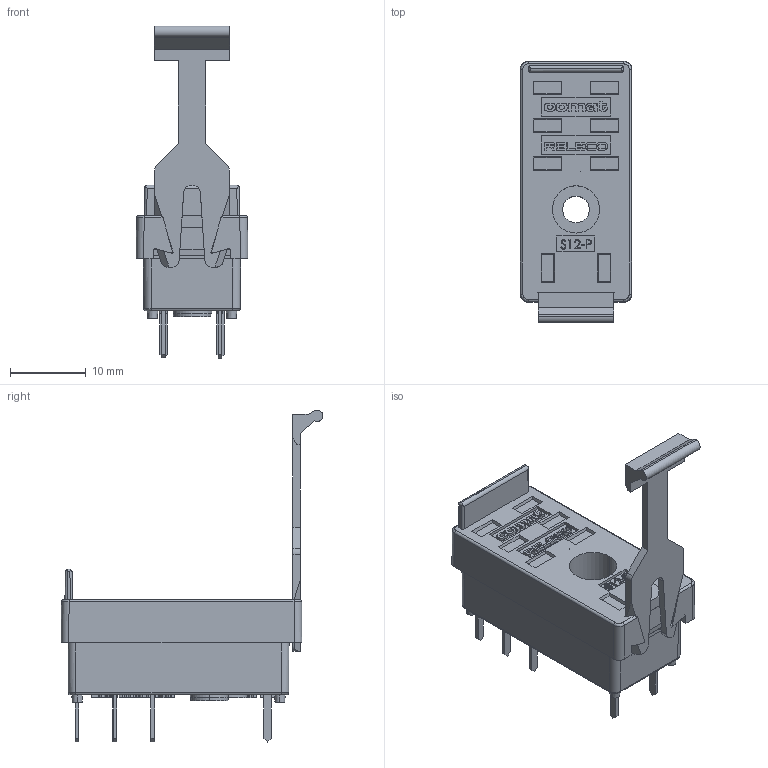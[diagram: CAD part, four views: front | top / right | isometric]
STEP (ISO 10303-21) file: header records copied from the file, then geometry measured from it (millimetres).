
FILE_DESCRIPTION (( 'STEP AP214' ), '1' );
FILE_NAME ('S12-P.STEP', '2024-04-09T10:46:45', ( '' ), ( '' ), 'SwSTEP 2.0', 'SolidWorks 2022', '' );
FILE_SCHEMA (( 'AUTOMOTIVE_DESIGN' ));
Length unit declared in the file: millimetre
Products named in the file (1): S12-P
Bounding box: 14.7 x 34.45 x 43.71 mm (x, y, z)
Volume: 5135.9 mm3; surface area: 3069.1 mm2
Topology: 1 solids, 1 shells, 815 faces, 2164 edges, 1432 vertices
Faces by surface type: plane 513, bspline 235, cylinder 55, cone 12
Entity records: 34976 total; most frequent: CARTESIAN_POINT 15781, ORIENTED_EDGE 4328, DIRECTION 2905, EDGE_CURVE 2164, LINE 1565, VECTOR 1565, VERTEX_POINT 1432, EDGE_LOOP 904
